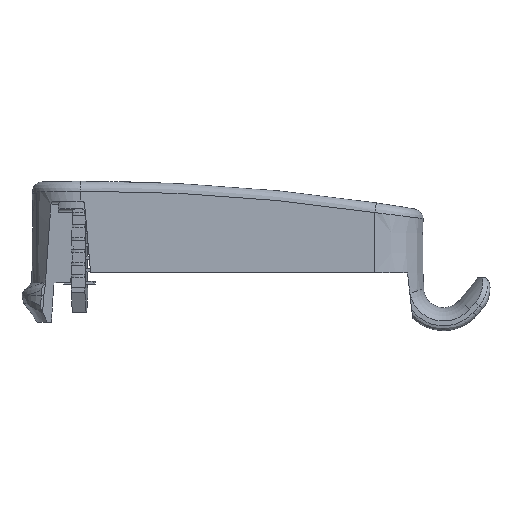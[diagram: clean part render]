
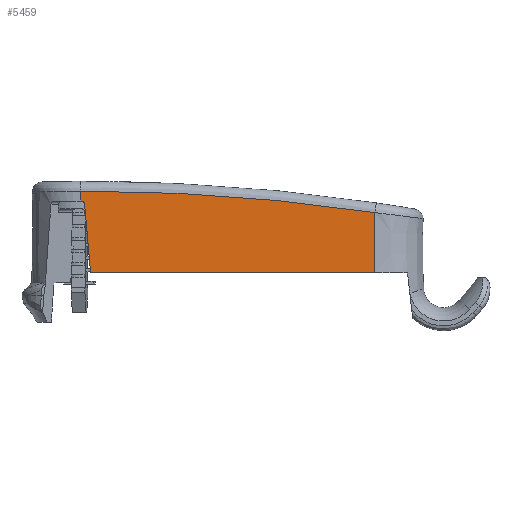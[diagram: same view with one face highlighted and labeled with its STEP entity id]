
A CAD part, left-side view. The second image highlights one B-rep face of the part: STEP entity #5459.
In plain terms, the highlighted planar face has unit normal (-1, 0, 0.009).
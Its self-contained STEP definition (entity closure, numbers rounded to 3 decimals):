
#605=FACE_OUTER_BOUND('',#899,.T.);
#899=EDGE_LOOP('',(#4719,#4720,#4721,#4722,#4723,#4724,#4725));
#982=ELLIPSE('',#5882,0.395,0.395);
#991=ELLIPSE('',#5925,199.21,199.203);
#1412=LINE('',#9709,#1886);
#1447=LINE('',#10032,#1921);
#1460=LINE('',#10089,#1934);
#1463=LINE('',#10402,#1937);
#1464=LINE('',#10704,#1938);
#1886=VECTOR('',#7047,1.);
#1921=VECTOR('',#7186,1.);
#1934=VECTOR('',#7235,1.);
#1937=VECTOR('',#7264,1.);
#1938=VECTOR('',#7283,1.);
#2386=VERTEX_POINT('',#9493);
#2387=VERTEX_POINT('',#9708);
#2425=VERTEX_POINT('',#10025);
#2426=VERTEX_POINT('',#10026);
#2427=VERTEX_POINT('',#10031);
#2433=VERTEX_POINT('',#10087);
#2441=VERTEX_POINT('',#10703);
#3084=EDGE_CURVE('',#2386,#2387,#1412,.T.);
#3154=EDGE_CURVE('',#2425,#2426,#982,.F.);
#3157=EDGE_CURVE('',#2427,#2425,#1447,.F.);
#3178=EDGE_CURVE('',#2426,#2433,#1460,.F.);
#3197=EDGE_CURVE('',#2433,#2387,#1463,.F.);
#3204=EDGE_CURVE('',#2441,#2427,#1464,.T.);
#3207=EDGE_CURVE('',#2386,#2441,#991,.T.);
#4719=ORIENTED_EDGE('',*,*,#3154,.T.);
#4720=ORIENTED_EDGE('',*,*,#3178,.T.);
#4721=ORIENTED_EDGE('',*,*,#3197,.T.);
#4722=ORIENTED_EDGE('',*,*,#3084,.F.);
#4723=ORIENTED_EDGE('',*,*,#3207,.T.);
#4724=ORIENTED_EDGE('',*,*,#3204,.T.);
#4725=ORIENTED_EDGE('',*,*,#3157,.T.);
#4937=PLANE('',#5924);
#5459=ADVANCED_FACE('',(#605),#4937,.T.);
#5882=AXIS2_PLACEMENT_3D('',#10027,#7180,#7181);
#5924=AXIS2_PLACEMENT_3D('',#10870,#7285,#7286);
#5925=AXIS2_PLACEMENT_3D('',#10871,#7287,#7288);
#7047=DIRECTION('',(-0.009,0.,-1.));
#7180=DIRECTION('center_axis',(-1.,0.,
0.009));
#7181=DIRECTION('ref_axis',(-0.009,0.,
-1.));
#7186=DIRECTION('',(0.,1.,0.));
#7235=DIRECTION('',(0.009,0.087,0.996));
#7264=DIRECTION('',(0.,1.,0.));
#7283=DIRECTION('',(-0.009,0.,-1.));
#7285=DIRECTION('center_axis',(-1.,0.,
0.009));
#7286=DIRECTION('ref_axis',(0.009,0.,1.));
#7287=DIRECTION('center_axis',(-1.,0.,
0.009));
#7288=DIRECTION('ref_axis',(-0.009,0.,
-1.));
#9493=CARTESIAN_POINT('',(-21.694,22.648,6.11));
#9708=CARTESIAN_POINT('',(-21.747,22.648,0.));
#9709=CARTESIAN_POINT('',(-21.747,22.648,0.));
#10025=CARTESIAN_POINT('',(-21.684,52.428,7.285));
#10026=CARTESIAN_POINT('',(-21.687,52.034,6.924));
#10027=CARTESIAN_POINT('Origin',(-21.687,52.428,6.889));
#10031=CARTESIAN_POINT('',(-21.684,52.441,7.285));
#10032=CARTESIAN_POINT('',(-21.684,52.441,7.285));
#10087=CARTESIAN_POINT('',(-21.747,51.429,0.));
#10089=CARTESIAN_POINT('',(-21.746,51.436,0.088));
#10402=CARTESIAN_POINT('',(-21.747,52.441,0.));
#10703=CARTESIAN_POINT('',(-21.675,52.441,8.285));
#10704=CARTESIAN_POINT('',(-21.747,52.441,0.));
#10870=CARTESIAN_POINT('Origin',(-21.747,52.441,0.));
#10871=CARTESIAN_POINT('Origin',(-23.413,52.012,-190.917));
